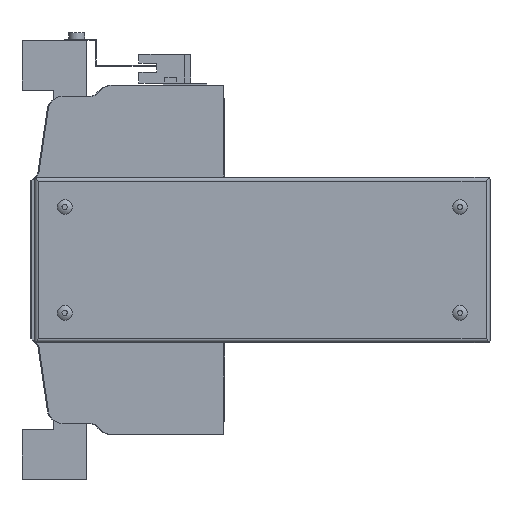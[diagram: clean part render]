
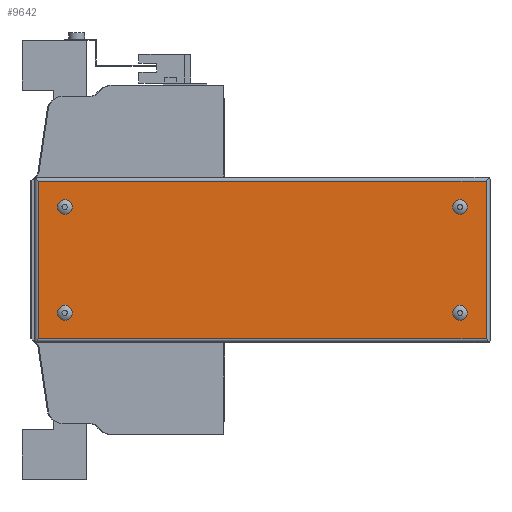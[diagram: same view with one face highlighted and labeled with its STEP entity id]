
A CAD part, left-side view. The second image highlights one B-rep face of the part: STEP entity #9642.
In plain terms, the highlighted planar face has unit normal (-1, 0, 0).
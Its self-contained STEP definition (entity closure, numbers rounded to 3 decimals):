
#279=PLANE('',#10379);
#977=LINE('',#14832,#2048);
#978=LINE('',#14835,#2049);
#979=LINE('',#14837,#2050);
#980=LINE('',#14839,#2051);
#2048=VECTOR('',#12032,1000.);
#2049=VECTOR('',#12033,1000.);
#2050=VECTOR('',#12034,1000.);
#2051=VECTOR('',#12035,1000.);
#3790=ORIENTED_EDGE('',*,*,#5941,.F.);
#3791=ORIENTED_EDGE('',*,*,#5942,.F.);
#3792=ORIENTED_EDGE('',*,*,#5943,.F.);
#3793=ORIENTED_EDGE('',*,*,#5944,.F.);
#3794=ORIENTED_EDGE('',*,*,#5945,.F.);
#3795=ORIENTED_EDGE('',*,*,#5946,.F.);
#3796=ORIENTED_EDGE('',*,*,#5947,.T.);
#3797=ORIENTED_EDGE('',*,*,#5948,.T.);
#5941=EDGE_CURVE('',#7123,#7123,#7759,.F.);
#5942=EDGE_CURVE('',#7124,#7124,#7760,.F.);
#5943=EDGE_CURVE('',#7125,#7125,#7761,.F.);
#5944=EDGE_CURVE('',#7126,#7126,#7762,.F.);
#5945=EDGE_CURVE('',#7127,#7128,#977,.T.);
#5946=EDGE_CURVE('',#7129,#7127,#978,.T.);
#5947=EDGE_CURVE('',#7129,#7130,#979,.T.);
#5948=EDGE_CURVE('',#7130,#7128,#980,.T.);
#7123=VERTEX_POINT('',#14825);
#7124=VERTEX_POINT('',#14827);
#7125=VERTEX_POINT('',#14829);
#7126=VERTEX_POINT('',#14831);
#7127=VERTEX_POINT('',#14833);
#7128=VERTEX_POINT('',#14834);
#7129=VERTEX_POINT('',#14836);
#7130=VERTEX_POINT('',#14838);
#7759=CIRCLE('',#10380,3.7);
#7760=CIRCLE('',#10381,3.7);
#7761=CIRCLE('',#10382,3.7);
#7762=CIRCLE('',#10383,3.7);
#8200=EDGE_LOOP('',(#3790));
#8201=EDGE_LOOP('',(#3791));
#8202=EDGE_LOOP('',(#3792));
#8203=EDGE_LOOP('',(#3793));
#8204=EDGE_LOOP('',(#3794,#3795,#3796,#3797));
#8889=FACE_BOUND('',#8200,.T.);
#8890=FACE_BOUND('',#8201,.T.);
#8891=FACE_BOUND('',#8202,.T.);
#8892=FACE_BOUND('',#8203,.T.);
#8893=FACE_BOUND('',#8204,.T.);
#9642=ADVANCED_FACE('',(#8889,#8890,#8891,#8892,#8893),#279,.F.);
#10379=AXIS2_PLACEMENT_3D('',#14823,#12022,#12023);
#10380=AXIS2_PLACEMENT_3D('',#14824,#12024,#12025);
#10381=AXIS2_PLACEMENT_3D('',#14826,#12026,#12027);
#10382=AXIS2_PLACEMENT_3D('',#14828,#12028,#12029);
#10383=AXIS2_PLACEMENT_3D('',#14830,#12030,#12031);
#12022=DIRECTION('',(1.,0.,0.));
#12023=DIRECTION('',(0.,0.,-1.));
#12024=DIRECTION('',(1.,0.,0.));
#12025=DIRECTION('',(0.,0.,-1.));
#12026=DIRECTION('',(1.,0.,0.));
#12027=DIRECTION('',(0.,0.,-1.));
#12028=DIRECTION('',(1.,0.,0.));
#12029=DIRECTION('',(0.,0.,-1.));
#12030=DIRECTION('',(1.,0.,0.));
#12031=DIRECTION('',(0.,0.,-1.));
#12032=DIRECTION('',(0.,-1.,0.));
#12033=DIRECTION('',(0.,0.,1.));
#12034=DIRECTION('',(0.,-1.,0.));
#12035=DIRECTION('',(0.,0.,1.));
#14823=CARTESIAN_POINT('',(-66.,-131.95,40.5));
#14824=CARTESIAN_POINT('',(-66.,-117.95,26.5));
#14825=CARTESIAN_POINT('',(-66.,-117.95,22.8));
#14826=CARTESIAN_POINT('',(-66.,-117.95,-26.5));
#14827=CARTESIAN_POINT('',(-66.,-117.95,-30.2));
#14828=CARTESIAN_POINT('',(-66.,80.05,26.5));
#14829=CARTESIAN_POINT('',(-66.,80.05,22.8));
#14830=CARTESIAN_POINT('',(-66.,80.05,-26.5));
#14831=CARTESIAN_POINT('',(-66.,80.05,-30.2));
#14832=CARTESIAN_POINT('',(-66.,228.,39.5));
#14833=CARTESIAN_POINT('',(-66.,93.05,39.5));
#14834=CARTESIAN_POINT('',(-66.,-130.95,39.5));
#14835=CARTESIAN_POINT('',(-66.,93.05,-83.));
#14836=CARTESIAN_POINT('',(-66.,93.05,-39.5));
#14837=CARTESIAN_POINT('',(-66.,228.,-39.5));
#14838=CARTESIAN_POINT('',(-66.,-130.95,-39.5));
#14839=CARTESIAN_POINT('',(-66.,-130.95,-83.));
